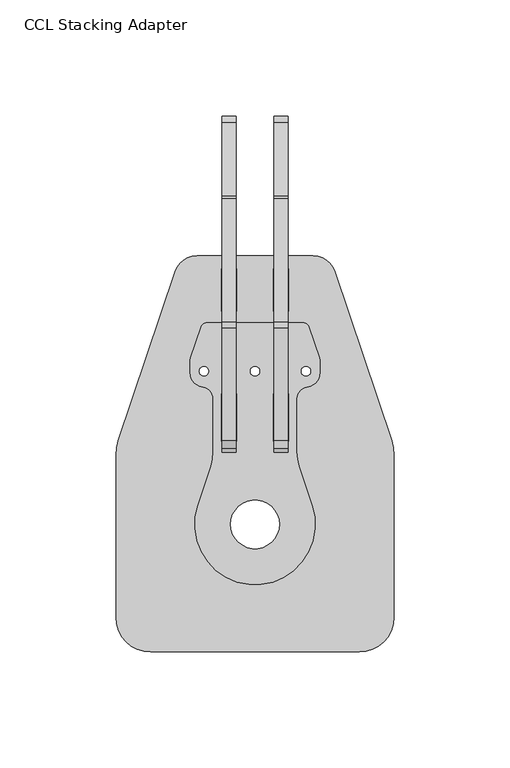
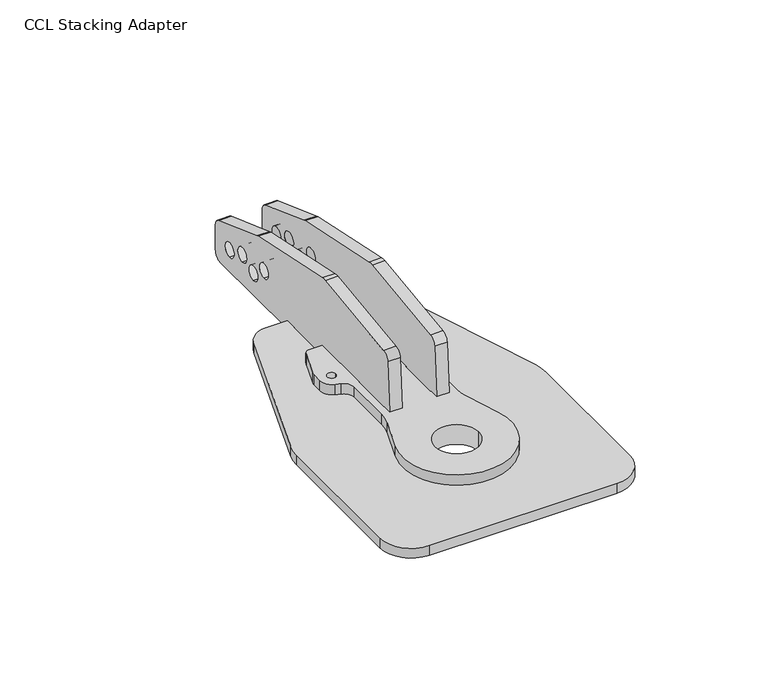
"""IFC4 building model written with IfcOpenShell, lengths in millimetres: proxy geometry, d&b CL-Series CCL Stacking Adapter : CCL Stacking Adapter."""

from ifc_helpers import new_model, si_unit, point, frame, frame_2d, origin, place, context, project, spatial, polyline, circle_curve, trimmed, segment, composite_curve, outline, extrude, source, transform, mapped, element, save


def ccl_stacking_adapter_d4930768(model_context):
    return source(origin(), model_context, "Body", "SweptSolid", [
        extrude(outline(composite_curve([segment(polyline([(231.0, 73.7709705), (231.0, 61.0713048)]), True, "CONTINUOUS"), segment(trimmed(circle_curve(frame_2d((227.0, 61.0713048)), 4.0), [point((231.0, 61.0713048))], [point((227.0, 57.0713048))], False, "CARTESIAN"), True, "CONTINUOUS"), segment(polyline([(227.0, 57.0713048), (171.0, 57.0713048), (171.0, 61.5713048), (165.0, 61.5713048), (165.0, 60.0713048), (147.0, 60.0713048), (147.0, 61.5713048), (142.0, 61.5713048), (142.0, 66.5713048), (111.0, 66.5713048), (111.0, 60.0713048), (91.0, 60.0713048), (91.0, 66.5713048), (86.0, 66.5713048), (87.7640921, 90.9984349)]), True, "CONTINUOUS"), segment(trimmed(circle_curve(frame_2d((91.7537017, 90.7103111)), 4.0), [point((87.7640921, 90.9984349))], [point((91.2489058, 94.6783309))], False, "CARTESIAN"), True, "CONTINUOUS"), segment(polyline([(91.2489058, 94.6783309), (139.6541573, 100.8362566)]), True, "CONTINUOUS"), segment(trimmed(circle_curve(frame_2d((140.6637491, 92.900217)), 8.0), [point((139.6541573, 100.8362566))], [point((142.3270426, 100.7253978))], False, "CARTESIAN"), True, "CONTINUOUS"), segment(polyline([(142.3270426, 100.7253978), (195.4521558, 89.4333064)]), True, "CONTINUOUS"), segment(trimmed(circle_curve(frame_2d((193.7888623, 81.6081256)), 8.0), [point((195.4521558, 89.4333064))], [point((196.5262743, 89.1252112))], False, "CARTESIAN"), True, "CONTINUOUS"), segment(polyline([(196.5262743, 89.1252112), (228.368706, 77.5295133)]), True, "CONTINUOUS"), segment(trimmed(circle_curve(frame_2d((227.0, 73.7709705)), 4.0), [point((228.368706, 77.5295133))], [point((231.0, 73.7709705))], False, "CARTESIAN"), True, "CONTINUOUS")], self_intersect=False), holes=[composite_curve([segment(trimmed(circle_curve(frame_2d((219.1756213, 68.0729744)), 3.65), [point((219.1756213, 64.4229744))], [point((219.1756213, 71.7229744))], True, "CARTESIAN"), True, "CONTINUOUS"), segment(trimmed(circle_curve(frame_2d((219.1756213, 68.0729744)), 3.65), [point((219.1756213, 71.7229744))], [point((219.1756213, 64.4229744))], True, "CARTESIAN"), True, "CONTINUOUS")], self_intersect=False), composite_curve([segment(trimmed(circle_curve(frame_2d((208.6848928, 71.9952971)), 3.65), [point((208.6848928, 68.3452971))], [point((208.6848928, 75.6452971))], True, "CARTESIAN"), True, "CONTINUOUS"), segment(trimmed(circle_curve(frame_2d((208.6848928, 71.9952971)), 3.65), [point((208.6848928, 75.6452971))], [point((208.6848928, 68.3452971))], True, "CARTESIAN"), True, "CONTINUOUS")], self_intersect=False), composite_curve([segment(trimmed(circle_curve(frame_2d((199.3968617, 68.1951012)), 3.65), [point((199.3968617, 64.5451012))], [point((199.3968617, 71.8451012))], True, "CARTESIAN"), True, "CONTINUOUS"), segment(trimmed(circle_curve(frame_2d((199.3968617, 68.1951012)), 3.65), [point((199.3968617, 71.8451012))], [point((199.3968617, 64.5451012))], True, "CARTESIAN"), True, "CONTINUOUS")], self_intersect=False), composite_curve([segment(trimmed(circle_curve(frame_2d((190.5544363, 74.7381518)), 3.65), [point((190.5544363, 71.0881518))], [point((190.5544363, 78.3881518))], True, "CARTESIAN"), True, "CONTINUOUS"), segment(trimmed(circle_curve(frame_2d((190.5544363, 74.7381518)), 3.65), [point((190.5544363, 78.3881518))], [point((190.5544363, 71.0881518))], True, "CARTESIAN"), True, "CONTINUOUS")], self_intersect=False)]), frame((-14.25, 0.0, 0.0), z_axis=(1.0, 0.0, 0.0), x_axis=(0.0, 1.0, 0.0)), (0.0, 0.0, 1.0), 6.0),
        extrude(outline(composite_curve([segment(polyline([(231.0, 73.7709705), (231.0, 61.0713048)]), True, "CONTINUOUS"), segment(trimmed(circle_curve(frame_2d((227.0, 61.0713048)), 4.0), [point((231.0, 61.0713048))], [point((227.0, 57.0713048))], False, "CARTESIAN"), True, "CONTINUOUS"), segment(polyline([(227.0, 57.0713048), (171.0, 57.0713048), (171.0, 61.5713048), (165.0, 61.5713048), (165.0, 60.0713048), (147.0, 60.0713048), (147.0, 61.5713048), (142.0, 61.5713048), (142.0, 66.5713048), (111.0, 66.5713048), (111.0, 60.0713048), (91.0, 60.0713048), (91.0, 66.5713048), (86.0, 66.5713048), (87.7640921, 90.9984349)]), True, "CONTINUOUS"), segment(trimmed(circle_curve(frame_2d((91.7537017, 90.7103111)), 4.0), [point((87.7640921, 90.9984349))], [point((91.2489058, 94.6783309))], False, "CARTESIAN"), True, "CONTINUOUS"), segment(polyline([(91.2489058, 94.6783309), (139.6541573, 100.8362566)]), True, "CONTINUOUS"), segment(trimmed(circle_curve(frame_2d((140.6637491, 92.900217)), 8.0), [point((139.6541573, 100.8362566))], [point((142.3270426, 100.7253978))], False, "CARTESIAN"), True, "CONTINUOUS"), segment(polyline([(142.3270426, 100.7253978), (195.4521558, 89.4333064)]), True, "CONTINUOUS"), segment(trimmed(circle_curve(frame_2d((193.7888623, 81.6081256)), 8.0), [point((195.4521558, 89.4333064))], [point((196.5262743, 89.1252112))], False, "CARTESIAN"), True, "CONTINUOUS"), segment(polyline([(196.5262743, 89.1252112), (228.368706, 77.5295133)]), True, "CONTINUOUS"), segment(trimmed(circle_curve(frame_2d((227.0, 73.7709705)), 4.0), [point((228.368706, 77.5295133))], [point((231.0, 73.7709705))], False, "CARTESIAN"), True, "CONTINUOUS")], self_intersect=False), holes=[composite_curve([segment(trimmed(circle_curve(frame_2d((219.1756213, 68.0729744)), 3.65), [point((219.1756213, 64.4229744))], [point((219.1756213, 71.7229744))], True, "CARTESIAN"), True, "CONTINUOUS"), segment(trimmed(circle_curve(frame_2d((219.1756213, 68.0729744)), 3.65), [point((219.1756213, 71.7229744))], [point((219.1756213, 64.4229744))], True, "CARTESIAN"), True, "CONTINUOUS")], self_intersect=False), composite_curve([segment(trimmed(circle_curve(frame_2d((208.6848928, 71.9952971)), 3.65), [point((208.6848928, 68.3452971))], [point((208.6848928, 75.6452971))], True, "CARTESIAN"), True, "CONTINUOUS"), segment(trimmed(circle_curve(frame_2d((208.6848928, 71.9952971)), 3.65), [point((208.6848928, 75.6452971))], [point((208.6848928, 68.3452971))], True, "CARTESIAN"), True, "CONTINUOUS")], self_intersect=False), composite_curve([segment(trimmed(circle_curve(frame_2d((199.3968617, 68.1951012)), 3.65), [point((199.3968617, 64.5451012))], [point((199.3968617, 71.8451012))], True, "CARTESIAN"), True, "CONTINUOUS"), segment(trimmed(circle_curve(frame_2d((199.3968617, 68.1951012)), 3.65), [point((199.3968617, 71.8451012))], [point((199.3968617, 64.5451012))], True, "CARTESIAN"), True, "CONTINUOUS")], self_intersect=False), composite_curve([segment(trimmed(circle_curve(frame_2d((190.5544363, 74.7381518)), 3.65), [point((190.5544363, 71.0881518))], [point((190.5544363, 78.3881518))], True, "CARTESIAN"), True, "CONTINUOUS"), segment(trimmed(circle_curve(frame_2d((190.5544363, 74.7381518)), 3.65), [point((190.5544363, 78.3881518))], [point((190.5544363, 71.0881518))], True, "CARTESIAN"), True, "CONTINUOUS")], self_intersect=False)]), frame((8.25, 0.0, 0.0), z_axis=(1.0, 0.0, 0.0), x_axis=(0.0, 1.0, 0.0)), (0.0, 0.0, 1.0), 6.0),
        extrude(outline(composite_curve([segment(polyline([(-20.4690547, 142.0), (20.4690547, 142.0)]), True, "CONTINUOUS"), segment(trimmed(circle_curve(frame_2d((20.4690547, 139.0)), 3.0), [point((20.4690547, 142.0))], [point((23.3129365, 139.955163))], False, "CARTESIAN"), True, "CONTINUOUS"), segment(polyline([(23.3129365, 139.955163), (27.739803, 126.774705)]), True, "CONTINUOUS"), segment(trimmed(circle_curve(frame_2d((23.0, 125.1827667)), 5.0), [point((27.739803, 126.774705))], [point((28.0, 125.1827667))], False, "CARTESIAN"), True, "CONTINUOUS"), segment(polyline([(28.0, 125.1827667), (28.0, 120.3141815)]), True, "CONTINUOUS"), segment(trimmed(circle_curve(frame_2d((22.0, 120.3141815)), 6.0), [point((28.0, 120.3141815))], [point((23.9103259, 114.6264179))], False, "CARTESIAN"), True, "CONTINUOUS"), segment(polyline([(23.9103259, 114.6264179), (21.4080617, 113.7859926)]), True, "CONTINUOUS"), segment(trimmed(circle_curve(frame_2d((23.0, 109.0461896)), 5.0), [point((21.4080617, 113.7859926))], [point((18.0, 109.0461896))], True, "CARTESIAN"), True, "CONTINUOUS"), segment(polyline([(18.0, 109.0461896), (18.0, 86.3375756)]), True, "CONTINUOUS"), segment(trimmed(circle_curve(frame_2d((38.0, 86.3375756)), 20.0), [point((18.0, 86.3375756))], [point((19.040788, 79.9698226))], True, "CARTESIAN"), True, "CONTINUOUS"), segment(polyline([(19.040788, 79.9698226), (24.6469757, 63.278079)]), True, "CONTINUOUS"), segment(trimmed(circle_curve(frame_2d((0.0, 55.0)), 26.0), [point((24.6469757, 63.278079))], [point((-24.6469757, 63.278079))], False, "CARTESIAN"), True, "CONTINUOUS"), segment(polyline([(-24.6469757, 63.278079), (-19.040788, 79.9698226)]), True, "CONTINUOUS"), segment(trimmed(circle_curve(frame_2d((-38.0, 86.3375756)), 20.0), [point((-19.040788, 79.9698226))], [point((-18.0, 86.3375756))], True, "CARTESIAN"), True, "CONTINUOUS"), segment(polyline([(-18.0, 86.3375756), (-18.0, 109.0461896)]), True, "CONTINUOUS"), segment(trimmed(circle_curve(frame_2d((-23.0, 109.0461896)), 5.0), [point((-18.0, 109.0461896))], [point((-21.4080617, 113.7859926))], True, "CARTESIAN"), True, "CONTINUOUS"), segment(polyline([(-21.4080617, 113.7859926), (-23.9103259, 114.6264179)]), True, "CONTINUOUS"), segment(trimmed(circle_curve(frame_2d((-22.0, 120.3141815)), 6.0), [point((-23.9103259, 114.6264179))], [point((-28.0, 120.3141815))], False, "CARTESIAN"), True, "CONTINUOUS"), segment(polyline([(-28.0, 120.3141815), (-28.0, 125.1827667)]), True, "CONTINUOUS"), segment(trimmed(circle_curve(frame_2d((-23.0, 125.1827667)), 5.0), [point((-28.0, 125.1827667))], [point((-27.739803, 126.774705))], False, "CARTESIAN"), True, "CONTINUOUS"), segment(polyline([(-27.739803, 126.774705), (-23.3129365, 139.955163)]), True, "CONTINUOUS"), segment(trimmed(circle_curve(frame_2d((-20.4690547, 139.0)), 3.0), [point((-23.3129365, 139.955163))], [point((-20.4690547, 142.0))], False, "CARTESIAN"), True, "CONTINUOUS")], self_intersect=False), holes=[composite_curve([segment(trimmed(circle_curve(frame_2d((0.0, 55.0)), 10.5), [point((10.5, 55.0))], [point((-10.5, 55.0))], True, "CARTESIAN"), True, "CONTINUOUS"), segment(trimmed(circle_curve(frame_2d((0.0, 55.0)), 10.5), [point((-10.5, 55.0))], [point((10.5, 55.0))], True, "CARTESIAN"), True, "CONTINUOUS")], self_intersect=False), composite_curve([segment(trimmed(circle_curve(frame_2d((-22.0, 121.0)), 2.025), [point((-19.975, 121.0))], [point((-24.025, 121.0))], True, "CARTESIAN"), True, "CONTINUOUS"), segment(trimmed(circle_curve(frame_2d((-22.0, 121.0)), 2.025), [point((-24.025, 121.0))], [point((-19.975, 121.0))], True, "CARTESIAN"), True, "CONTINUOUS")], self_intersect=False), composite_curve([segment(trimmed(circle_curve(frame_2d((0.0, 121.0)), 2.025), [point((2.025, 121.0))], [point((-2.025, 121.0))], True, "CARTESIAN"), True, "CONTINUOUS"), segment(trimmed(circle_curve(frame_2d((0.0, 121.0)), 2.025), [point((-2.025, 121.0))], [point((2.025, 121.0))], True, "CARTESIAN"), True, "CONTINUOUS")], self_intersect=False), composite_curve([segment(trimmed(circle_curve(frame_2d((22.0, 121.0)), 2.025), [point((19.975, 121.0))], [point((24.025, 121.0))], True, "CARTESIAN"), True, "CONTINUOUS"), segment(trimmed(circle_curve(frame_2d((22.0, 121.0)), 2.025), [point((24.025, 121.0))], [point((19.975, 121.0))], True, "CARTESIAN"), True, "CONTINUOUS")], self_intersect=False), polyline([(14.45, 111.2), (8.05, 111.2), (8.05, 90.8), (14.45, 90.8), (14.45, 111.2)]), polyline([(-8.05, 111.2), (-14.45, 111.2), (-14.45, 90.8), (-8.05, 90.8), (-8.05, 111.2)])]), frame((0.0, 0.0, 56.5713048), z_axis=(0.0, 0.0, 1.0), x_axis=(1.0, 0.0, 0.0)), (0.0, 0.0, 1.0), 10.0),
        extrude(outline(composite_curve([segment(polyline([(-58.959212, 91.0988199), (-34.479606, 163.9838765)]), True, "CONTINUOUS"), segment(trimmed(circle_curve(frame_2d((-25.0, 160.8)), 10.0), [point((-34.479606, 163.9838765))], [point((-25.0, 170.8))], False, "CARTESIAN"), True, "CONTINUOUS"), segment(polyline([(-25.0, 170.8), (25.0, 170.8)]), True, "CONTINUOUS"), segment(trimmed(circle_curve(frame_2d((25.0, 160.8)), 10.0), [point((25.0, 170.8))], [point((34.479606, 163.9838765))], False, "CARTESIAN"), True, "CONTINUOUS"), segment(polyline([(34.479606, 163.9838765), (58.959212, 91.0988199)]), True, "CONTINUOUS"), segment(trimmed(circle_curve(frame_2d((40.0, 84.7310668)), 20.0), [point((58.959212, 91.0988199))], [point((60.0, 84.7310668))], False, "CARTESIAN"), True, "CONTINUOUS"), segment(polyline([(60.0, 84.7310668), (60.0, 15.0)]), True, "CONTINUOUS"), segment(trimmed(circle_curve(frame_2d((45.0, 15.0)), 15.0), [point((60.0, 15.0))], [point((45.0, 0.0))], False, "CARTESIAN"), True, "CONTINUOUS"), segment(polyline([(45.0, 0.0), (-45.0, 0.0)]), True, "CONTINUOUS"), segment(trimmed(circle_curve(frame_2d((-45.0, 15.0)), 15.0), [point((-45.0, 0.0))], [point((-60.0, 15.0))], False, "CARTESIAN"), True, "CONTINUOUS"), segment(polyline([(-60.0, 15.0), (-60.0, 84.7310668)]), True, "CONTINUOUS"), segment(trimmed(circle_curve(frame_2d((-40.0, 84.7310668)), 20.0), [point((-60.0, 84.7310668))], [point((-58.959212, 91.0988199))], False, "CARTESIAN"), True, "CONTINUOUS")], self_intersect=False), holes=[composite_curve([segment(trimmed(circle_curve(frame_2d((-20.4690547, 139.0)), 3.0), [point((-20.4690547, 142.0))], [point((-23.3129365, 139.955163))], True, "CARTESIAN"), True, "CONTINUOUS"), segment(polyline([(-23.3129365, 139.955163), (-27.739803, 126.774705)]), True, "CONTINUOUS"), segment(trimmed(circle_curve(frame_2d((-23.0, 125.1827667)), 5.0), [point((-27.739803, 126.774705))], [point((-28.0, 125.1827667))], True, "CARTESIAN"), True, "CONTINUOUS"), segment(polyline([(-28.0, 125.1827667), (-28.0, 120.3141815)]), True, "CONTINUOUS"), segment(trimmed(circle_curve(frame_2d((-22.0, 120.3141815)), 6.0), [point((-28.0, 120.3141815))], [point((-23.9103259, 114.6264179))], True, "CARTESIAN"), True, "CONTINUOUS"), segment(polyline([(-23.9103259, 114.6264179), (-21.4080617, 113.7859926)]), True, "CONTINUOUS"), segment(trimmed(circle_curve(frame_2d((-23.0, 109.0461896)), 5.0), [point((-21.4080617, 113.7859926))], [point((-18.0, 109.0461896))], False, "CARTESIAN"), True, "CONTINUOUS"), segment(polyline([(-18.0, 109.0461896), (-18.0, 86.3375756)]), True, "CONTINUOUS"), segment(trimmed(circle_curve(frame_2d((-38.0, 86.3375756)), 20.0), [point((-18.0, 86.3375756))], [point((-19.040788, 79.9698226))], False, "CARTESIAN"), True, "CONTINUOUS"), segment(polyline([(-19.040788, 79.9698226), (-24.6469757, 63.278079)]), True, "CONTINUOUS"), segment(trimmed(circle_curve(frame_2d((0.0, 55.0)), 26.0), [point((-24.6469757, 63.278079))], [point((24.6469757, 63.278079))], True, "CARTESIAN"), True, "CONTINUOUS"), segment(polyline([(24.6469757, 63.278079), (19.040788, 79.9698226)]), True, "CONTINUOUS"), segment(trimmed(circle_curve(frame_2d((38.0, 86.3375756)), 20.0), [point((19.040788, 79.9698226))], [point((18.0, 86.3375756))], False, "CARTESIAN"), True, "CONTINUOUS"), segment(polyline([(18.0, 86.3375756), (18.0, 109.0461896)]), True, "CONTINUOUS"), segment(trimmed(circle_curve(frame_2d((23.0, 109.0461896)), 5.0), [point((18.0, 109.0461896))], [point((21.4080617, 113.7859926))], False, "CARTESIAN"), True, "CONTINUOUS"), segment(polyline([(21.4080617, 113.7859926), (23.9103259, 114.6264179)]), True, "CONTINUOUS"), segment(trimmed(circle_curve(frame_2d((22.0, 120.3141815)), 6.0), [point((23.9103259, 114.6264179))], [point((28.0, 120.3141815))], True, "CARTESIAN"), True, "CONTINUOUS"), segment(polyline([(28.0, 120.3141815), (28.0, 125.1827667)]), True, "CONTINUOUS"), segment(trimmed(circle_curve(frame_2d((23.0, 125.1827667)), 5.0), [point((28.0, 125.1827667))], [point((27.739803, 126.774705))], True, "CARTESIAN"), True, "CONTINUOUS"), segment(polyline([(27.739803, 126.774705), (23.3129365, 139.955163)]), True, "CONTINUOUS"), segment(trimmed(circle_curve(frame_2d((20.4690547, 139.0)), 3.0), [point((23.3129365, 139.955163))], [point((20.4690547, 142.0))], True, "CARTESIAN"), True, "CONTINUOUS"), segment(polyline([(20.4690547, 142.0), (-20.4690547, 142.0)]), True, "CONTINUOUS")], self_intersect=False), polyline([(-8.05, 165.2), (-14.45, 165.2), (-14.45, 146.8), (-8.05, 146.8), (-8.05, 165.2)]), polyline([(8.05, 165.2), (8.05, 146.8), (14.45, 146.8), (14.45, 165.2), (8.05, 165.2)])]), frame((0.0, 0.0, 56.5713048), z_axis=(0.0, 0.0, 1.0), x_axis=(1.0, 0.0, 0.0)), (0.0, 0.0, 1.0), 5.0),
    ])


if __name__ == "__main__":
    model = new_model("IFC4")
    model_context = context("Model", 3, world=origin())
    ifc_project = project(units=[si_unit("LENGTHUNIT", "METRE", prefix="MILLI")], contexts=[model_context])
    site = spatial("IfcSite", under=ifc_project)
    building = spatial("IfcBuilding", under=site)
    placement = place(None, origin())
    ccl_stacking_adapter_shape = ccl_stacking_adapter_d4930768(model_context)
    element("IfcBuildingElementProxy", 1, Name="d&b CL-Series CCL Stacking Adapter : CCL Stacking Adapter", ObjectType="d&b CL-Series CCL Stacking Adapter : CCL Stacking Adapter", at=placement, inside=building, context=model_context, shape_type="MappedRepresentation", body=[
        mapped(ccl_stacking_adapter_shape, transform((0.0, 0.0, 0.0), x_axis=(1.0, 0.0, 0.0), y_axis=(0.0, 1.0, 0.0), z_axis=(0.0, 0.0, 1.0))),
    ])
    save(model, "model.ifc")
